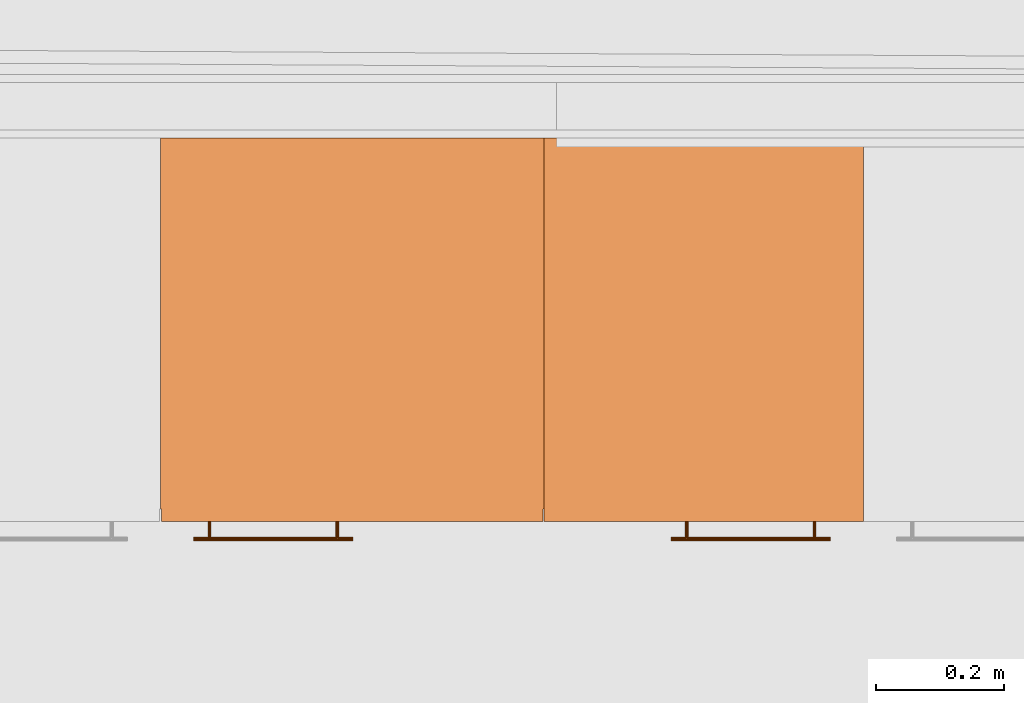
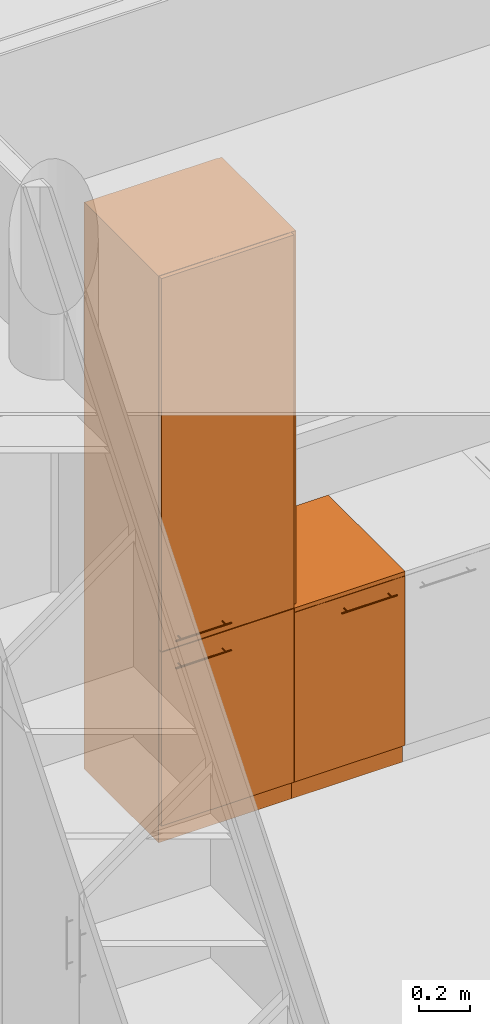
# One storey, part 89 of 167: 2 proxies.
"""IFC2X3 building model written with IfcOpenShell, lengths in millimetres."""

from ifc_helpers import new_model, entity, si_unit, converted_unit, derived_unit, money_unit, direction, frame, origin_with_axes, place, context, subcontext, project, spatial, open_shell, faceted_brep, surface_model, source, transform, mapped, type_object, type_shapes, element, save


model = new_model("IFC2X3")

# Units and contexts
model_context = context("Model", 3, precision=0.01, world=origin_with_axes(), true_north=direction((0.0, 1.0)))
plan_context = context("Plan", 3, precision=0.01, world=origin_with_axes(), true_north=direction((0.0, 1.0)))
body_context = subcontext(model_context, "Body", "Model", "MODEL_VIEW")
ifc_project = project(units=[si_unit("LENGTHUNIT", "METRE", prefix="MILLI"), si_unit("AREAUNIT", "SQUARE_METRE"), si_unit("VOLUMEUNIT", "CUBIC_METRE"), converted_unit("PLANEANGLEUNIT", "DEGREE", entity("IfcPlaneAngleMeasure", 0.0174532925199), si_unit("PLANEANGLEUNIT", "RADIAN"), dimensions=[0, 0, 0, 0, 0, 0, 0]), si_unit("SOLIDANGLEUNIT", "STERADIAN"), money_unit("EUR"), converted_unit("TIMEUNIT", "Year", entity("IfcTimeMeasure", 31556926.0), si_unit("TIMEUNIT", "SECOND"), dimensions=[0, 0, 1, 0, 0, 0, 0]), si_unit("MASSUNIT", "GRAM", prefix="KILO"), si_unit("THERMODYNAMICTEMPERATUREUNIT", "DEGREE_CELSIUS"), si_unit("LUMINOUSINTENSITYUNIT", "LUMEN"), si_unit("ENERGYUNIT", "JOULE", prefix="MEGA"), derived_unit("THERMALCONDUCTANCEUNIT", [(si_unit("POWERUNIT", "WATT"), 1), (si_unit("LENGTHUNIT", "METRE"), -1), (si_unit("THERMODYNAMICTEMPERATUREUNIT", "KELVIN"), -1)]), derived_unit("SPECIFICHEATCAPACITYUNIT", [(si_unit("ENERGYUNIT", "JOULE"), 1), (si_unit("MASSUNIT", "GRAM", prefix="KILO"), -1), (si_unit("THERMODYNAMICTEMPERATUREUNIT", "KELVIN"), -1)]), derived_unit("MASSDENSITYUNIT", [(si_unit("MASSUNIT", "GRAM", prefix="KILO"), 1), (si_unit("VOLUMEUNIT", "CUBIC_METRE"), -1)])], contexts=[model_context, plan_context])

# Site, building, storey
site_placement = place(None, origin_with_axes())
site = spatial("IfcSite", under=ifc_project, at=site_placement, Name="Site", CompositionType="ELEMENT")
building_placement = place(site_placement, origin_with_axes())
building = spatial("IfcBuilding", under=site, at=building_placement, Name="Naam gebouw", CompositionType="ELEMENT")
storey_placement = place(building_placement, origin_with_axes())
storey = spatial("IfcBuildingStorey", under=building, at=storey_placement, Name="Begane grond", CompositionType="ELEMENT", Elevation=0.0)

# Proxies
building_element_proxy_type_1 = type_object("IfcBuildingElementProxyType", Name="Kast basis 1D 24", PredefinedType="NOTDEFINED")
shared_shape_1 = source(origin_with_axes(), body_context, "Body", "SurfaceModel", [
    faceted_brep([(0.0, 20.0, 0.0), (500.0, 20.0, 0.0), (500.0, 20.0, 90.0), (0.0, 20.0, 90.0), (0.0, 600.0, 0.0), (500.0, 600.0, 0.0), (500.0, 600.0, 90.0), (0.0, 600.0, 90.0)], [[[0, 1, 2, 3]], [[0, 4, 5, 1]], [[1, 5, 6, 2]], [[3, 2, 6, 7]], [[4, 0, 3, 7]], [[5, 4, 7, 6]]]),
    faceted_brep([(0.0, 20.0, 880.0), (20.0, 20.0, 880.0), (20.0, 20.0, 900.0), (0.0, 20.0, 900.0), (0.0, 600.0, 880.0), (20.0, 600.0, 880.0), (480.0, 600.0, 880.0), (500.0, 600.0, 880.0), (500.0, 20.0, 880.0), (480.0, 20.0, 880.0), (480.0, 20.0, 900.0), (500.0, 20.0, 900.0), (500.0, 600.0, 900.0), (480.0, 600.0, 900.0), (20.0, 600.0, 900.0), (0.0, 600.0, 900.0)], [[[0, 1, 2, 3]], [[0, 4, 5, 6, 7, 8, 9, 1]], [[1, 9, 10, 2]], [[3, 2, 10, 11, 12, 13, 14, 15]], [[4, 0, 3, 15]], [[5, 4, 15, 14]], [[6, 5, 14, 13]], [[7, 6, 13, 12]], [[8, 7, 12, 11]], [[9, 8, 11, 10]]]),
    faceted_brep([(0.0, 20.0, 90.0), (20.0, 20.0, 90.0), (20.0, 20.0, 110.0), (0.0, 20.0, 110.0), (0.0, 600.0, 90.0), (20.0, 600.0, 90.0), (480.0, 600.0, 90.0), (500.0, 600.0, 90.0), (500.0, 20.0, 90.0), (480.0, 20.0, 90.0), (480.0, 20.0, 110.0), (500.0, 20.0, 110.0), (500.0, 600.0, 110.0), (480.0, 600.0, 110.0), (20.0, 600.0, 110.0), (0.0, 600.0, 110.0)], [[[0, 1, 2, 3]], [[0, 4, 5, 6, 7, 8, 9, 1]], [[1, 9, 10, 2]], [[3, 2, 10, 11, 12, 13, 14, 15]], [[4, 0, 3, 15]], [[5, 4, 15, 14]], [[6, 5, 14, 13]], [[7, 6, 13, 12]], [[8, 7, 12, 11]], [[9, 8, 11, 10]]]),
    faceted_brep([(0.0, 20.0, 110.0), (20.0, 20.0, 110.0), (20.0, 20.0, 880.0), (0.0, 20.0, 880.0), (0.0, 600.0, 110.0), (500.0, 600.0, 110.0), (500.0, 20.0, 110.0), (480.0, 20.0, 110.0), (480.0, 580.0, 110.0), (20.0, 580.0, 110.0), (20.0, 580.0, 880.0), (480.0, 580.0, 880.0), (480.0, 20.0, 880.0), (500.0, 20.0, 880.0), (500.0, 600.0, 880.0), (0.0, 600.0, 880.0)], [[[0, 1, 2, 3]], [[0, 4, 5, 6, 7, 8, 9, 1]], [[1, 9, 10, 2]], [[3, 2, 10, 11, 12, 13, 14, 15]], [[4, 0, 3, 15]], [[5, 4, 15, 14]], [[6, 5, 14, 13]], [[7, 6, 13, 12]], [[8, 7, 12, 11]], [[9, 8, 11, 10]]]),
    faceted_brep([(480.0, 20.0, 475.0), (480.0, 580.0, 475.0), (480.0, 580.0, 495.0), (480.0, 20.0, 495.0), (20.0, 20.0, 475.0), (20.0, 580.0, 475.0), (20.0, 580.0, 495.0), (20.0, 20.0, 495.0)], [[[0, 1, 2, 3]], [[0, 4, 5, 1]], [[1, 5, 6, 2]], [[3, 2, 6, 7]], [[4, 0, 3, 7]], [[5, 4, 7, 6]]]),
    faceted_brep([(0.0, 0.0, 900.0), (500.0, 0.0, 900.0), (500.0, 0.0, 920.0), (0.0, 0.0, 920.0), (0.0, 600.0, 900.0), (500.0, 600.0, 900.0), (500.0, 600.0, 920.0), (0.0, 600.0, 920.0)], [[[0, 1, 2, 3]], [[0, 4, 5, 1]], [[1, 5, 6, 2]], [[3, 2, 6, 7]], [[4, 0, 3, 7]], [[5, 4, 7, 6]]]),
    faceted_brep([(1.5, 20.0, 91.5), (498.5, 20.0, 91.5), (498.5, 0.0, 91.5), (1.5, 0.0, 91.5), (1.5, 20.0, 898.5), (498.5, 20.0, 898.5), (498.5, 0.0, 898.5), (1.5, 0.0, 898.5)], [[[0, 1, 2, 3]], [[0, 4, 5, 1]], [[1, 5, 6, 2]], [[3, 2, 6, 7]], [[4, 0, 3, 7]], [[5, 4, 7, 6]]]),
    faceted_brep([(198.5, -28.1480502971, 838.728361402), (198.5, -29.1213203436, 839.378679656), (198.5, -29.7716385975, 840.351949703), (198.5, -30.0, 841.5), (198.5, -29.7716385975, 842.648050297), (198.5, -29.1213203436, 843.621320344), (198.5, -28.1480502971, 844.271638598), (198.5, -27.0, 844.5), (198.5, -25.8519497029, 844.271638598), (198.5, -24.8786796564, 843.621320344), (198.5, -24.2283614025, 842.648050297), (198.5, -24.0, 841.5), (198.5, -24.2283614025, 840.351949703), (198.5, -24.8786796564, 839.378679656), (198.5, -25.8519497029, 838.728361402), (198.5, -27.0, 838.5), (448.5, -28.1480502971, 838.728361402), (448.5, -29.1213203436, 839.378679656), (448.5, -29.7716385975, 840.351949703), (448.5, -30.0, 841.5), (448.5, -29.7716385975, 842.648050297), (448.5, -29.1213203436, 843.621320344), (448.5, -28.1480502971, 844.271638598), (448.5, -27.0, 844.5), (448.5, -25.8519497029, 844.271638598), (448.5, -24.8786796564, 843.621320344), (448.5, -24.2283614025, 842.648050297), (448.5, -24.0, 841.5), (448.5, -24.2283614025, 840.351949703), (448.5, -24.8786796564, 839.378679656), (448.5, -25.8519497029, 838.728361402), (448.5, -27.0, 838.5)], [[[0, 1, 2, 3, 4, 5, 6, 7, 8, 9, 10, 11, 12, 13, 14, 15]], [[1, 0, 16, 17]], [[2, 1, 17, 18]], [[3, 2, 18, 19]], [[4, 3, 19, 20]], [[5, 4, 20, 21]], [[6, 5, 21, 22]], [[7, 6, 22, 23]], [[8, 7, 23, 24]], [[9, 8, 24, 25]], [[10, 9, 25, 26]], [[11, 10, 26, 27]], [[12, 11, 27, 28]], [[13, 12, 28, 29]], [[14, 13, 29, 30]], [[15, 14, 30, 31]], [[0, 15, 31, 16]], [[16, 31, 30, 29, 28, 27, 26, 25, 24, 23, 22, 21, 20, 19, 18, 17]]]),
    surface_model("IfcShellBasedSurfaceModel", [(221.190301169, -24.156637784, 840.543291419), (221.0, -24.0, 841.5), (221.0, 0.0, 841.5), (221.190301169, 0.0, 840.543291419), (221.190301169, -24.156637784, 842.456708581), (221.190301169, 0.0, 842.456708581), (221.732233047, 0.0, 843.267766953), (222.543291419, 0.0, 843.809698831), (223.5, 0.0, 844.0), (224.456708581, 0.0, 843.809698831), (225.267766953, 0.0, 843.267766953), (225.809698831, 0.0, 842.456708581), (226.0, 0.0, 841.5), (225.809698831, 0.0, 840.543291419), (225.267766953, 0.0, 839.732233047), (224.456708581, 0.0, 839.190301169), (223.5, 0.0, 839.0), (222.543291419, 0.0, 839.190301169), (221.732233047, 0.0, 839.732233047), (221.732233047, -24.5761600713, 839.732233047), (221.732233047, -24.5761600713, 843.267766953), (222.543291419, -25.0855049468, 843.809698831), (223.5, -25.3416876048, 844.0), (224.456708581, -25.0855049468, 843.809698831), (225.267766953, -24.5761600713, 843.267766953), (225.809698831, -24.156637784, 842.456708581), (226.0, -24.0, 841.5), (225.809698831, -24.156637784, 840.543291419), (225.267766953, -24.5761600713, 839.732233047), (224.456708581, -25.0855049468, 839.190301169), (223.5, -25.3416876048, 839.0), (222.543291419, -25.0855049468, 839.190301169)], [open_shell([[[0, 1, 2, 3]], [[1, 4, 5, 2]], [[3, 2, 5, 6, 7, 8, 9, 10, 11, 12, 13, 14, 15, 16, 17, 18]], [[19, 0, 3, 18]], [[4, 20, 6, 5]], [[20, 21, 7, 6]], [[21, 22, 8, 7]], [[22, 23, 9, 8]], [[23, 24, 10, 9]], [[24, 25, 11, 10]], [[25, 26, 12, 11]], [[26, 27, 13, 12]], [[27, 28, 14, 13]], [[28, 29, 15, 14]], [[29, 30, 16, 15]], [[30, 31, 17, 16]], [[31, 19, 18, 17]]])]),
    surface_model("IfcShellBasedSurfaceModel", [(421.190301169, -24.156637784, 840.543291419), (421.0, -24.0, 841.5), (421.0, 0.0, 841.5), (421.190301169, 0.0, 840.543291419), (421.190301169, -24.156637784, 842.456708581), (421.190301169, 0.0, 842.456708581), (421.732233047, 0.0, 843.267766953), (422.543291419, 0.0, 843.809698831), (423.5, 0.0, 844.0), (424.456708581, 0.0, 843.809698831), (425.267766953, 0.0, 843.267766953), (425.809698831, 0.0, 842.456708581), (426.0, 0.0, 841.5), (425.809698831, 0.0, 840.543291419), (425.267766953, 0.0, 839.732233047), (424.456708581, 0.0, 839.190301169), (423.5, 0.0, 839.0), (422.543291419, 0.0, 839.190301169), (421.732233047, 0.0, 839.732233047), (421.732233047, -24.5761600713, 839.732233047), (421.732233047, -24.5761600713, 843.267766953), (422.543291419, -25.0855049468, 843.809698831), (423.5, -25.3416876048, 844.0), (424.456708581, -25.0855049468, 843.809698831), (425.267766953, -24.5761600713, 843.267766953), (425.809698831, -24.156637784, 842.456708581), (426.0, -24.0, 841.5), (425.809698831, -24.156637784, 840.543291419), (425.267766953, -24.5761600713, 839.732233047), (424.456708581, -25.0855049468, 839.190301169), (423.5, -25.3416876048, 839.0), (422.543291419, -25.0855049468, 839.190301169)], [open_shell([[[0, 1, 2, 3]], [[1, 4, 5, 2]], [[3, 2, 5, 6, 7, 8, 9, 10, 11, 12, 13, 14, 15, 16, 17, 18]], [[19, 0, 3, 18]], [[4, 20, 6, 5]], [[20, 21, 7, 6]], [[21, 22, 8, 7]], [[22, 23, 9, 8]], [[23, 24, 10, 9]], [[24, 25, 11, 10]], [[25, 26, 12, 11]], [[26, 27, 13, 12]], [[27, 28, 14, 13]], [[28, 29, 15, 14]], [[29, 30, 16, 15]], [[30, 31, 17, 16]], [[31, 19, 18, 17]]])]),
])
type_shapes(building_element_proxy_type_1, [shared_shape_1])
proxy_1_placement = place(storey_placement, frame((15700.0, 7573.34783859, 0.0), z_axis=(0.0, 0.0, 1.0), x_axis=(1.0, 0.0, 0.0)))
element("IfcBuildingElementProxy", 1, at=proxy_1_placement, inside=storey, type_object=building_element_proxy_type_1, Name="__Object-x", context=body_context, shape_type="MappedRepresentation", body=[
    mapped(shared_shape_1, transform((0.0, 0.0, 0.0))),
])
building_element_proxy_type_2 = type_object("IfcBuildingElementProxyType", Name="Kast hoog 1D 24", PredefinedType="NOTDEFINED")
shared_shape_2 = source(origin_with_axes(), body_context, "Body", "SurfaceModel", [
    faceted_brep([(-40.0, 20.0, 910.0), (-40.0, 20.0, 930.0), (-600.0, 20.0, 930.0), (-600.0, 20.0, 910.0), (-40.0, 580.0, 910.0), (-40.0, 580.0, 930.0), (-600.0, 580.0, 930.0), (-600.0, 580.0, 910.0)], [[[0, 1, 2, 3]], [[4, 5, 1, 0]], [[1, 5, 6, 2]], [[3, 2, 6, 7]], [[0, 3, 7, 4]], [[7, 6, 5, 4]]]),
    faceted_brep([(-20.0, 20.0, 0.0), (-20.0, 20.0, 90.0), (-620.0, 20.0, 90.0), (-620.0, 20.0, 0.0), (-20.0, 600.0, 0.0), (-20.0, 600.0, 90.0), (-620.0, 600.0, 90.0), (-620.0, 600.0, 0.0)], [[[0, 1, 2, 3]], [[4, 5, 1, 0]], [[1, 5, 6, 2]], [[3, 2, 6, 7]], [[0, 3, 7, 4]], [[7, 6, 5, 4]]]),
    faceted_brep([(-20.0, 20.0, 2680.0), (-20.0, 20.0, 2700.0), (-40.0, 20.0, 2700.0), (-40.0, 20.0, 2680.0), (-20.0, 600.0, 2680.0), (-20.0, 600.0, 2700.0), (-40.0, 600.0, 2700.0), (-600.0, 600.0, 2700.0), (-620.0, 600.0, 2700.0), (-620.0, 20.0, 2700.0), (-600.0, 20.0, 2700.0), (-600.0, 20.0, 2680.0), (-620.0, 20.0, 2680.0), (-620.0, 600.0, 2680.0), (-600.0, 600.0, 2680.0), (-40.0, 600.0, 2680.0)], [[[0, 1, 2, 3]], [[4, 5, 1, 0]], [[1, 5, 6, 7, 8, 9, 10, 2]], [[3, 2, 10, 11]], [[0, 3, 11, 12, 13, 14, 15, 4]], [[15, 6, 5, 4]], [[14, 7, 6, 15]], [[13, 8, 7, 14]], [[12, 9, 8, 13]], [[11, 10, 9, 12]]]),
    faceted_brep([(-20.0, 20.0, 90.0), (-20.0, 20.0, 110.0), (-40.0, 20.0, 110.0), (-40.0, 20.0, 90.0), (-20.0, 600.0, 90.0), (-20.0, 600.0, 110.0), (-40.0, 600.0, 110.0), (-600.0, 600.0, 110.0), (-620.0, 600.0, 110.0), (-620.0, 20.0, 110.0), (-600.0, 20.0, 110.0), (-600.0, 20.0, 90.0), (-620.0, 20.0, 90.0), (-620.0, 600.0, 90.0), (-600.0, 600.0, 90.0), (-40.0, 600.0, 90.0)], [[[0, 1, 2, 3]], [[4, 5, 1, 0]], [[1, 5, 6, 7, 8, 9, 10, 2]], [[3, 2, 10, 11]], [[0, 3, 11, 12, 13, 14, 15, 4]], [[15, 6, 5, 4]], [[14, 7, 6, 15]], [[13, 8, 7, 14]], [[12, 9, 8, 13]], [[11, 10, 9, 12]]]),
    faceted_brep([(-20.0, 20.0, 110.0), (-20.0, 20.0, 2680.0), (-40.0, 20.0, 2680.0), (-40.0, 20.0, 110.0), (-20.0, 600.0, 110.0), (-20.0, 600.0, 2680.0), (-620.0, 600.0, 2680.0), (-620.0, 20.0, 2680.0), (-600.0, 20.0, 2680.0), (-600.0, 580.0, 2680.0), (-40.0, 580.0, 2680.0), (-40.0, 580.0, 110.0), (-600.0, 580.0, 110.0), (-600.0, 20.0, 110.0), (-620.0, 20.0, 110.0), (-620.0, 600.0, 110.0)], [[[0, 1, 2, 3]], [[4, 5, 1, 0]], [[1, 5, 6, 7, 8, 9, 10, 2]], [[3, 2, 10, 11]], [[0, 3, 11, 12, 13, 14, 15, 4]], [[15, 6, 5, 4]], [[14, 7, 6, 15]], [[13, 8, 7, 14]], [[12, 9, 8, 13]], [[11, 10, 9, 12]]]),
    faceted_brep([(-600.0, 20.0, 353.333333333), (-600.0, 20.0, 373.333333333), (-600.0, 580.0, 373.333333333), (-600.0, 580.0, 353.333333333), (-40.0, 20.0, 353.333333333), (-40.0, 20.0, 373.333333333), (-40.0, 580.0, 373.333333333), (-40.0, 580.0, 353.333333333)], [[[0, 1, 2, 3]], [[4, 5, 1, 0]], [[1, 5, 6, 2]], [[3, 2, 6, 7]], [[0, 3, 7, 4]], [[7, 6, 5, 4]]]),
    faceted_brep([(-600.0, 20.0, 636.666666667), (-600.0, 20.0, 656.666666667), (-600.0, 580.0, 656.666666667), (-600.0, 580.0, 636.666666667), (-40.0, 20.0, 636.666666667), (-40.0, 20.0, 656.666666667), (-40.0, 580.0, 656.666666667), (-40.0, 580.0, 636.666666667)], [[[0, 1, 2, 3]], [[4, 5, 1, 0]], [[1, 5, 6, 2]], [[3, 2, 6, 7]], [[0, 3, 7, 4]], [[7, 6, 5, 4]]]),
    faceted_brep([(-21.5, 20.0, 91.5), (-21.5, 0.0, 91.5), (-618.5, 0.0, 91.5), (-618.5, 20.0, 91.5), (-21.5, 20.0, 918.5), (-21.5, 0.0, 918.5), (-618.5, 0.0, 918.5), (-618.5, 20.0, 918.5)], [[[0, 1, 2, 3]], [[4, 5, 1, 0]], [[1, 5, 6, 2]], [[3, 2, 6, 7]], [[0, 3, 7, 4]], [[7, 6, 5, 4]]]),
    faceted_brep([(-318.5, -28.1480502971, 838.728361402), (-318.5, -27.0, 838.5), (-318.5, -25.8519497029, 838.728361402), (-318.5, -24.8786796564, 839.378679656), (-318.5, -24.2283614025, 840.351949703), (-318.5, -24.0, 841.5), (-318.5, -24.2283614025, 842.648050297), (-318.5, -24.8786796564, 843.621320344), (-318.5, -25.8519497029, 844.271638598), (-318.5, -27.0, 844.5), (-318.5, -28.1480502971, 844.271638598), (-318.5, -29.1213203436, 843.621320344), (-318.5, -29.7716385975, 842.648050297), (-318.5, -30.0, 841.5), (-318.5, -29.7716385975, 840.351949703), (-318.5, -29.1213203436, 839.378679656), (-568.5, -28.1480502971, 838.728361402), (-568.5, -27.0, 838.5), (-568.5, -25.8519497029, 838.728361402), (-568.5, -24.8786796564, 839.378679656), (-568.5, -24.2283614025, 840.351949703), (-568.5, -24.0, 841.5), (-568.5, -24.2283614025, 842.648050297), (-568.5, -24.8786796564, 843.621320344), (-568.5, -25.8519497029, 844.271638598), (-568.5, -27.0, 844.5), (-568.5, -28.1480502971, 844.271638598), (-568.5, -29.1213203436, 843.621320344), (-568.5, -29.7716385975, 842.648050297), (-568.5, -30.0, 841.5), (-568.5, -29.7716385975, 840.351949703), (-568.5, -29.1213203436, 839.378679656)], [[[0, 1, 2, 3, 4, 5, 6, 7, 8, 9, 10, 11, 12, 13, 14, 15]], [[0, 16, 17, 1]], [[1, 17, 18, 2]], [[2, 18, 19, 3]], [[3, 19, 20, 4]], [[4, 20, 21, 5]], [[5, 21, 22, 6]], [[6, 22, 23, 7]], [[7, 23, 24, 8]], [[8, 24, 25, 9]], [[9, 25, 26, 10]], [[10, 26, 27, 11]], [[11, 27, 28, 12]], [[12, 28, 29, 13]], [[13, 29, 30, 14]], [[14, 30, 31, 15]], [[15, 31, 16, 0]], [[16, 31, 30, 29, 28, 27, 26, 25, 24, 23, 22, 21, 20, 19, 18, 17]]]),
    surface_model("IfcShellBasedSurfaceModel", [(-341.190301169, -24.156637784, 840.543291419), (-341.190301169, 0.0, 840.543291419), (-341.0, 0.0, 841.5), (-341.0, -24.0, 841.5), (-341.732233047, -24.5761600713, 839.732233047), (-341.732233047, 0.0, 839.732233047), (-342.543291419, 0.0, 839.190301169), (-343.5, 0.0, 839.0), (-344.456708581, 0.0, 839.190301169), (-345.267766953, 0.0, 839.732233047), (-345.809698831, 0.0, 840.543291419), (-346.0, 0.0, 841.5), (-345.809698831, 0.0, 842.456708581), (-345.267766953, 0.0, 843.267766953), (-344.456708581, 0.0, 843.809698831), (-343.5, 0.0, 844.0), (-342.543291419, 0.0, 843.809698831), (-341.732233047, 0.0, 843.267766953), (-341.190301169, 0.0, 842.456708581), (-341.190301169, -24.156637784, 842.456708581), (-342.543291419, -25.0855049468, 839.190301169), (-343.5, -25.3416876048, 839.0), (-344.456708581, -25.0855049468, 839.190301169), (-345.267766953, -24.5761600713, 839.732233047), (-345.809698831, -24.156637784, 840.543291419), (-346.0, -24.0, 841.5), (-345.809698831, -24.156637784, 842.456708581), (-345.267766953, -24.5761600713, 843.267766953), (-344.456708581, -25.0855049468, 843.809698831), (-343.5, -25.3416876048, 844.0), (-342.543291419, -25.0855049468, 843.809698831), (-341.732233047, -24.5761600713, 843.267766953)], [open_shell([[[0, 1, 2, 3]], [[4, 5, 1, 0]], [[1, 5, 6, 7, 8, 9, 10, 11, 12, 13, 14, 15, 16, 17, 18, 2]], [[3, 2, 18, 19]], [[20, 6, 5, 4]], [[21, 7, 6, 20]], [[22, 8, 7, 21]], [[23, 9, 8, 22]], [[24, 10, 9, 23]], [[25, 11, 10, 24]], [[26, 12, 11, 25]], [[27, 13, 12, 26]], [[28, 14, 13, 27]], [[29, 15, 14, 28]], [[30, 16, 15, 29]], [[31, 17, 16, 30]], [[19, 18, 17, 31]]])]),
    surface_model("IfcShellBasedSurfaceModel", [(-541.190301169, -24.156637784, 840.543291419), (-541.190301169, 0.0, 840.543291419), (-541.0, 0.0, 841.5), (-541.0, -24.0, 841.5), (-541.732233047, -24.5761600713, 839.732233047), (-541.732233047, 0.0, 839.732233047), (-542.543291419, 0.0, 839.190301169), (-543.5, 0.0, 839.0), (-544.456708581, 0.0, 839.190301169), (-545.267766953, 0.0, 839.732233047), (-545.809698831, 0.0, 840.543291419), (-546.0, 0.0, 841.5), (-545.809698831, 0.0, 842.456708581), (-545.267766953, 0.0, 843.267766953), (-544.456708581, 0.0, 843.809698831), (-543.5, 0.0, 844.0), (-542.543291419, 0.0, 843.809698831), (-541.732233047, 0.0, 843.267766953), (-541.190301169, 0.0, 842.456708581), (-541.190301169, -24.156637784, 842.456708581), (-542.543291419, -25.0855049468, 839.190301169), (-543.5, -25.3416876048, 839.0), (-544.456708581, -25.0855049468, 839.190301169), (-545.267766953, -24.5761600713, 839.732233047), (-545.809698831, -24.156637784, 840.543291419), (-546.0, -24.0, 841.5), (-545.809698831, -24.156637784, 842.456708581), (-545.267766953, -24.5761600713, 843.267766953), (-544.456708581, -25.0855049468, 843.809698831), (-543.5, -25.3416876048, 844.0), (-542.543291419, -25.0855049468, 843.809698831), (-541.732233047, -24.5761600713, 843.267766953)], [open_shell([[[0, 1, 2, 3]], [[4, 5, 1, 0]], [[1, 5, 6, 7, 8, 9, 10, 11, 12, 13, 14, 15, 16, 17, 18, 2]], [[3, 2, 18, 19]], [[20, 6, 5, 4]], [[21, 7, 6, 20]], [[22, 8, 7, 21]], [[23, 9, 8, 22]], [[24, 10, 9, 23]], [[25, 11, 10, 24]], [[26, 12, 11, 25]], [[27, 13, 12, 26]], [[28, 14, 13, 27]], [[29, 15, 14, 28]], [[30, 16, 15, 29]], [[31, 17, 16, 30]], [[19, 18, 17, 31]]])]),
    faceted_brep([(-21.5, 20.0, 921.5), (-21.5, 0.0, 921.5), (-618.5, 0.0, 921.5), (-618.5, 20.0, 921.5), (-21.5, 20.0, 2698.5), (-21.5, 0.0, 2698.5), (-618.5, 0.0, 2698.5), (-618.5, 20.0, 2698.5)], [[[0, 1, 2, 3]], [[4, 5, 1, 0]], [[1, 5, 6, 2]], [[3, 2, 6, 7]], [[0, 3, 7, 4]], [[7, 6, 5, 4]]]),
    faceted_brep([(-318.5, -28.1480502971, 968.728361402), (-318.5, -27.0, 968.5), (-318.5, -25.8519497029, 968.728361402), (-318.5, -24.8786796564, 969.378679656), (-318.5, -24.2283614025, 970.351949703), (-318.5, -24.0, 971.5), (-318.5, -24.2283614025, 972.648050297), (-318.5, -24.8786796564, 973.621320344), (-318.5, -25.8519497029, 974.271638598), (-318.5, -27.0, 974.5), (-318.5, -28.1480502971, 974.271638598), (-318.5, -29.1213203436, 973.621320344), (-318.5, -29.7716385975, 972.648050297), (-318.5, -30.0, 971.5), (-318.5, -29.7716385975, 970.351949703), (-318.5, -29.1213203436, 969.378679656), (-568.5, -28.1480502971, 968.728361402), (-568.5, -27.0, 968.5), (-568.5, -25.8519497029, 968.728361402), (-568.5, -24.8786796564, 969.378679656), (-568.5, -24.2283614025, 970.351949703), (-568.5, -24.0, 971.5), (-568.5, -24.2283614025, 972.648050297), (-568.5, -24.8786796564, 973.621320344), (-568.5, -25.8519497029, 974.271638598), (-568.5, -27.0, 974.5), (-568.5, -28.1480502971, 974.271638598), (-568.5, -29.1213203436, 973.621320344), (-568.5, -29.7716385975, 972.648050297), (-568.5, -30.0, 971.5), (-568.5, -29.7716385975, 970.351949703), (-568.5, -29.1213203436, 969.378679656)], [[[0, 1, 2, 3, 4, 5, 6, 7, 8, 9, 10, 11, 12, 13, 14, 15]], [[0, 16, 17, 1]], [[1, 17, 18, 2]], [[2, 18, 19, 3]], [[3, 19, 20, 4]], [[4, 20, 21, 5]], [[5, 21, 22, 6]], [[6, 22, 23, 7]], [[7, 23, 24, 8]], [[8, 24, 25, 9]], [[9, 25, 26, 10]], [[10, 26, 27, 11]], [[11, 27, 28, 12]], [[12, 28, 29, 13]], [[13, 29, 30, 14]], [[14, 30, 31, 15]], [[15, 31, 16, 0]], [[16, 31, 30, 29, 28, 27, 26, 25, 24, 23, 22, 21, 20, 19, 18, 17]]]),
    surface_model("IfcShellBasedSurfaceModel", [(-341.190301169, -24.156637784, 970.543291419), (-341.190301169, 0.0, 970.543291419), (-341.0, 0.0, 971.5), (-341.0, -24.0, 971.5), (-341.732233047, -24.5761600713, 969.732233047), (-341.732233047, 0.0, 969.732233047), (-342.543291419, 0.0, 969.190301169), (-343.5, 0.0, 969.0), (-344.456708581, 0.0, 969.190301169), (-345.267766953, 0.0, 969.732233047), (-345.809698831, 0.0, 970.543291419), (-346.0, 0.0, 971.5), (-345.809698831, 0.0, 972.456708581), (-345.267766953, 0.0, 973.267766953), (-344.456708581, 0.0, 973.809698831), (-343.5, 0.0, 974.0), (-342.543291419, 0.0, 973.809698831), (-341.732233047, 0.0, 973.267766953), (-341.190301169, 0.0, 972.456708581), (-341.190301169, -24.156637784, 972.456708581), (-342.543291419, -25.0855049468, 969.190301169), (-343.5, -25.3416876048, 969.0), (-344.456708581, -25.0855049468, 969.190301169), (-345.267766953, -24.5761600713, 969.732233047), (-345.809698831, -24.156637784, 970.543291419), (-346.0, -24.0, 971.5), (-345.809698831, -24.156637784, 972.456708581), (-345.267766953, -24.5761600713, 973.267766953), (-344.456708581, -25.0855049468, 973.809698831), (-343.5, -25.3416876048, 974.0), (-342.543291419, -25.0855049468, 973.809698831), (-341.732233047, -24.5761600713, 973.267766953)], [open_shell([[[0, 1, 2, 3]], [[4, 5, 1, 0]], [[1, 5, 6, 7, 8, 9, 10, 11, 12, 13, 14, 15, 16, 17, 18, 2]], [[3, 2, 18, 19]], [[20, 6, 5, 4]], [[21, 7, 6, 20]], [[22, 8, 7, 21]], [[23, 9, 8, 22]], [[24, 10, 9, 23]], [[25, 11, 10, 24]], [[26, 12, 11, 25]], [[27, 13, 12, 26]], [[28, 14, 13, 27]], [[29, 15, 14, 28]], [[30, 16, 15, 29]], [[31, 17, 16, 30]], [[19, 18, 17, 31]]])]),
    surface_model("IfcShellBasedSurfaceModel", [(-541.190301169, -24.156637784, 970.543291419), (-541.190301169, 0.0, 970.543291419), (-541.0, 0.0, 971.5), (-541.0, -24.0, 971.5), (-541.732233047, -24.5761600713, 969.732233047), (-541.732233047, 0.0, 969.732233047), (-542.543291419, 0.0, 969.190301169), (-543.5, 0.0, 969.0), (-544.456708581, 0.0, 969.190301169), (-545.267766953, 0.0, 969.732233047), (-545.809698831, 0.0, 970.543291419), (-546.0, 0.0, 971.5), (-545.809698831, 0.0, 972.456708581), (-545.267766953, 0.0, 973.267766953), (-544.456708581, 0.0, 973.809698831), (-543.5, 0.0, 974.0), (-542.543291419, 0.0, 973.809698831), (-541.732233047, 0.0, 973.267766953), (-541.190301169, 0.0, 972.456708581), (-541.190301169, -24.156637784, 972.456708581), (-542.543291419, -25.0855049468, 969.190301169), (-543.5, -25.3416876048, 969.0), (-544.456708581, -25.0855049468, 969.190301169), (-545.267766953, -24.5761600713, 969.732233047), (-545.809698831, -24.156637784, 970.543291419), (-546.0, -24.0, 971.5), (-545.809698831, -24.156637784, 972.456708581), (-545.267766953, -24.5761600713, 973.267766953), (-544.456708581, -25.0855049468, 973.809698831), (-543.5, -25.3416876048, 974.0), (-542.543291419, -25.0855049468, 973.809698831), (-541.732233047, -24.5761600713, 973.267766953)], [open_shell([[[0, 1, 2, 3]], [[4, 5, 1, 0]], [[1, 5, 6, 7, 8, 9, 10, 11, 12, 13, 14, 15, 16, 17, 18, 2]], [[3, 2, 18, 19]], [[20, 6, 5, 4]], [[21, 7, 6, 20]], [[22, 8, 7, 21]], [[23, 9, 8, 22]], [[24, 10, 9, 23]], [[25, 11, 10, 24]], [[26, 12, 11, 25]], [[27, 13, 12, 26]], [[28, 14, 13, 27]], [[29, 15, 14, 28]], [[30, 16, 15, 29]], [[31, 17, 16, 30]], [[19, 18, 17, 31]]])]),
    faceted_brep([(-20.0, 598.5, 1.5), (0.0, 598.5, 1.5), (0.0, 21.5, 1.5), (-20.0, 21.5, 1.5), (-20.0, 598.5, 918.5), (0.0, 598.5, 918.5), (0.0, 21.5, 918.5), (-20.0, 21.5, 918.5)], [[[0, 1, 2, 3]], [[4, 5, 1, 0]], [[1, 5, 6, 2]], [[3, 2, 6, 7]], [[0, 3, 7, 4]], [[7, 6, 5, 4]]]),
    faceted_brep([(-20.0, 598.5, 921.5), (0.0, 598.5, 921.5), (0.0, 21.5, 921.5), (-20.0, 21.5, 921.5), (-20.0, 598.5, 2698.5), (0.0, 598.5, 2698.5), (0.0, 21.5, 2698.5), (-20.0, 21.5, 2698.5)], [[[0, 1, 2, 3]], [[4, 5, 1, 0]], [[1, 5, 6, 2]], [[3, 2, 6, 7]], [[0, 3, 7, 4]], [[7, 6, 5, 4]]]),
])
type_shapes(building_element_proxy_type_2, [shared_shape_2])
proxy_2_placement = place(storey_placement, frame((15720.0, 7573.34783859, 0.0), z_axis=(0.0, 0.0, 1.0), x_axis=(1.0, 0.0, 0.0)))
element("IfcBuildingElementProxy", 2, at=proxy_2_placement, inside=storey, type_object=building_element_proxy_type_2, Name="__Object-x", context=body_context, shape_type="MappedRepresentation", body=[
    mapped(shared_shape_2, transform((0.0, 0.0, 0.0))),
])

save(model, "model.ifc")
